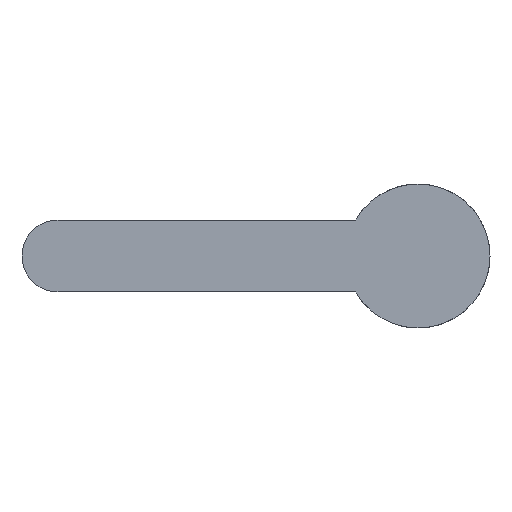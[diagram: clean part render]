
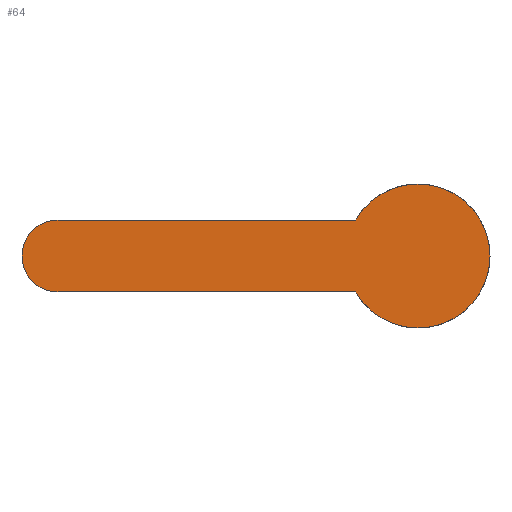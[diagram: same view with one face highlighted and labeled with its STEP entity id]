
A CAD part, left-side view. The second image highlights one B-rep face of the part: STEP entity #64.
In plain terms, the highlighted planar face has unit normal (-1, 0, 0).
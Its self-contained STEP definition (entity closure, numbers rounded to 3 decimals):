
#64 = ADVANCED_FACE( '', ( #127 ), #128, .T. );
#127 = FACE_OUTER_BOUND( '', #181, .T. );
#128 = PLANE( '', #182 );
#181 = EDGE_LOOP( '', ( #284, #285, #286, #287, #288 ) );
#182 = AXIS2_PLACEMENT_3D( '', #289, #290, #291 );
#284 = ORIENTED_EDGE( '', *, *, #309, .T. );
#285 = ORIENTED_EDGE( '', *, *, #318, .T. );
#286 = ORIENTED_EDGE( '', *, *, #304, .T. );
#287 = ORIENTED_EDGE( '', *, *, #320, .T. );
#288 = ORIENTED_EDGE( '', *, *, #328, .T. );
#289 = CARTESIAN_POINT( '', ( -29.994, -0.757, 0. ) );
#290 = DIRECTION( '', ( -1., 0., 0. ) );
#291 = DIRECTION( '', ( 0., -1., 0. ) );
#304 = EDGE_CURVE( '', #353, #351, #354, .T. );
#309 = EDGE_CURVE( '', #362, #360, #363, .T. );
#318 = EDGE_CURVE( '', #360, #353, #375, .T. );
#320 = EDGE_CURVE( '', #351, #377, #378, .T. );
#328 = EDGE_CURVE( '', #377, #362, #387, .T. );
#351 = VERTEX_POINT( '', #412 );
#353 = VERTEX_POINT( '', #415 );
#354 = CIRCLE( '', #416, 10. );
#360 = VERTEX_POINT( '', #518 );
#362 = VERTEX_POINT( '', #521 );
#363 = CIRCLE( '', #522, 20. );
#375 = LINE( '', #539, #540 );
#377 = VERTEX_POINT( '', #542 );
#378 = CIRCLE( '', #543, 10. );
#387 = LINE( '', #557, #558 );
#412 = CARTESIAN_POINT( '', ( -29.994, 109.243, 0. ) );
#415 = CARTESIAN_POINT( '', ( -29.994, 99.243, 10. ) );
#416 = AXIS2_PLACEMENT_3D( '', #583, #584, #585 );
#518 = CARTESIAN_POINT( '', ( -29.994, 16.564, 10. ) );
#521 = CARTESIAN_POINT( '', ( -29.994, 16.564, -10. ) );
#522 = AXIS2_PLACEMENT_3D( '', #588, #589, #590 );
#539 = CARTESIAN_POINT( '', ( -29.994, 17.261, 10. ) );
#540 = VECTOR( '', #599, 1000. );
#542 = CARTESIAN_POINT( '', ( -29.994, 99.243, -10. ) );
#543 = AXIS2_PLACEMENT_3D( '', #600, #601, #602 );
#557 = CARTESIAN_POINT( '', ( -29.994, 99.243, -10. ) );
#558 = VECTOR( '', #608, 1000. );
#583 = CARTESIAN_POINT( '', ( -29.994, 99.243, 0. ) );
#584 = DIRECTION( '', ( -1., 0., 0. ) );
#585 = DIRECTION( '', ( 0., -1., 0. ) );
#588 = CARTESIAN_POINT( '', ( -29.994, -0.757, 0. ) );
#589 = DIRECTION( '', ( -1., 0., 0. ) );
#590 = DIRECTION( '', ( 0., -1., 0. ) );
#599 = DIRECTION( '', ( 0., 1., 0. ) );
#600 = CARTESIAN_POINT( '', ( -29.994, 99.243, 0. ) );
#601 = DIRECTION( '', ( -1., 0., 0. ) );
#602 = DIRECTION( '', ( 0., -1., 0. ) );
#608 = DIRECTION( '', ( 0., -1., 0. ) );
